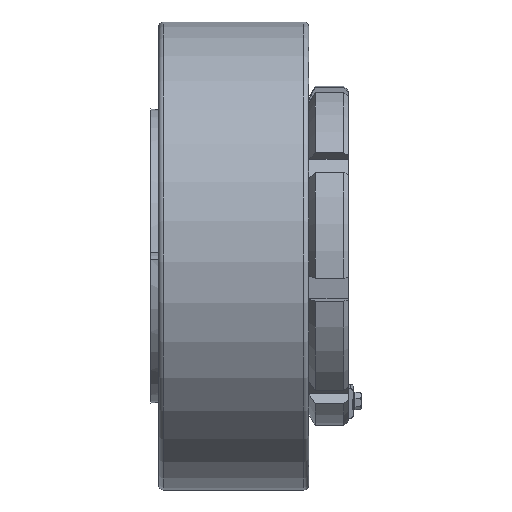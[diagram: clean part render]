
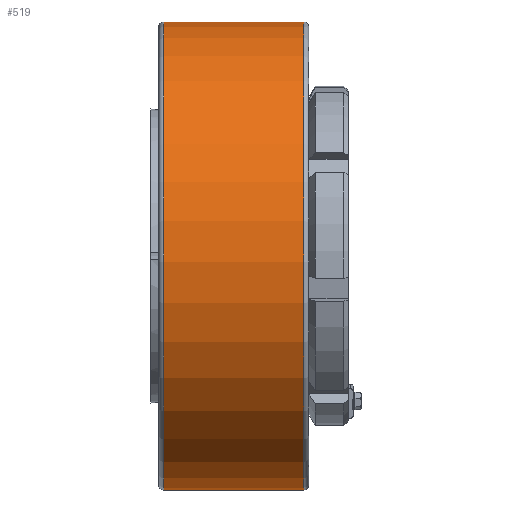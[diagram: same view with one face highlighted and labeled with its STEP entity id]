
A CAD part, front view. The second image highlights one B-rep face of the part: STEP entity #519.
In plain terms, the highlighted cylindrical face has radius 200 mm (diameter 400 mm), a full revolution.
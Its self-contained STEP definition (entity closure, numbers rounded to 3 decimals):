
#519 = ADVANCED_FACE( '', ( #1166, #1167 ), #1168, .T. );
#1166 = FACE_OUTER_BOUND( '', #1939, .T. );
#1167 = FACE_OUTER_BOUND( '', #1940, .T. );
#1168 = CYLINDRICAL_SURFACE( '', #1941, 200. );
#1939 = EDGE_LOOP( '', ( #4071 ) );
#1940 = EDGE_LOOP( '', ( #4072 ) );
#1941 = AXIS2_PLACEMENT_3D( '', #4073, #4074, #4075 );
#4071 = ORIENTED_EDGE( '', *, *, #5546, .T. );
#4072 = ORIENTED_EDGE( '', *, *, #5545, .F. );
#4073 = CARTESIAN_POINT( '', ( 0., 0., 0. ) );
#4074 = DIRECTION( '', ( -1., 0., 0. ) );
#4075 = DIRECTION( '', ( 0., 0., -1. ) );
#5545 = EDGE_CURVE( '', #6814, #6814, #6815, .T. );
#5546 = EDGE_CURVE( '', #6816, #6816, #6817, .T. );
#6814 = VERTEX_POINT( '', #8863 );
#6815 = CIRCLE( '', #8864, 200. );
#6816 = VERTEX_POINT( '', #8865 );
#6817 = CIRCLE( '', #8866, 200. );
#8863 = CARTESIAN_POINT( '', ( -45., 0., -200. ) );
#8864 = AXIS2_PLACEMENT_3D( '', #10431, #10432, #10433 );
#8865 = CARTESIAN_POINT( '', ( -165., 0., -200. ) );
#8866 = AXIS2_PLACEMENT_3D( '', #10434, #10435, #10436 );
#10431 = CARTESIAN_POINT( '', ( -45., 0., 0. ) );
#10432 = DIRECTION( '', ( 1., 0., 0. ) );
#10433 = DIRECTION( '', ( 0., 0., -1. ) );
#10434 = CARTESIAN_POINT( '', ( -165., 0., 0. ) );
#10435 = DIRECTION( '', ( 1., 0., 0. ) );
#10436 = DIRECTION( '', ( 0., 0., -1. ) );
